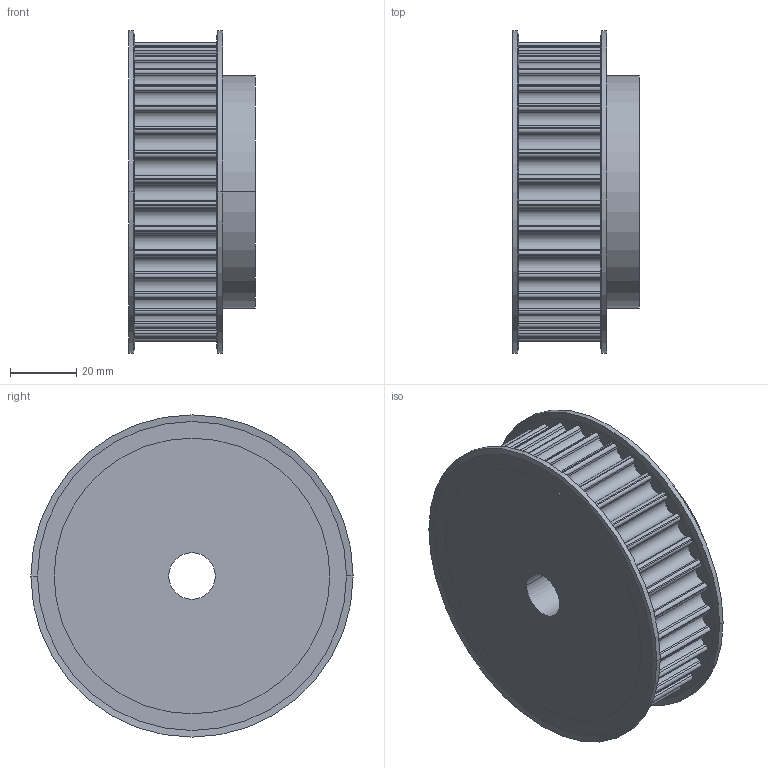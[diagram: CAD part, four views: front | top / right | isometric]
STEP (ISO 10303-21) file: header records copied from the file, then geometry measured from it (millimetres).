
FILE_DESCRIPTION( ( '' ), '1' );
FILE_NAME( 'C:/Users/Stangenbergd/Documents/CAD_Step/1/17411800.stp', '2021-10-19T10:08:50', ( '' ), ( '' ), ' ', ' ', ' ' );
FILE_SCHEMA( ( 'CONFIG_CONTROL_DESIGN' ) );
Length unit declared in the file: millimetre
Products named in the file (1): 1
Bounding box: 38.13 x 97 x 97 mm (x, y, z)
Volume: 199931 mm3; surface area: 32783.1 mm2
Topology: 1 solids, 1 shells, 243 faces, 700 edges, 464 vertices
Faces by surface type: cylinder 156, plane 79, cone 8
Entity records: 8158 total; most frequent: DIRECTION 1508, CARTESIAN_POINT 1408, ORIENTED_EDGE 1400, EDGE_CURVE 700, AXIS2_PLACEMENT_3D 564, VERTEX_POINT 464, LINE 380, VECTOR 380
